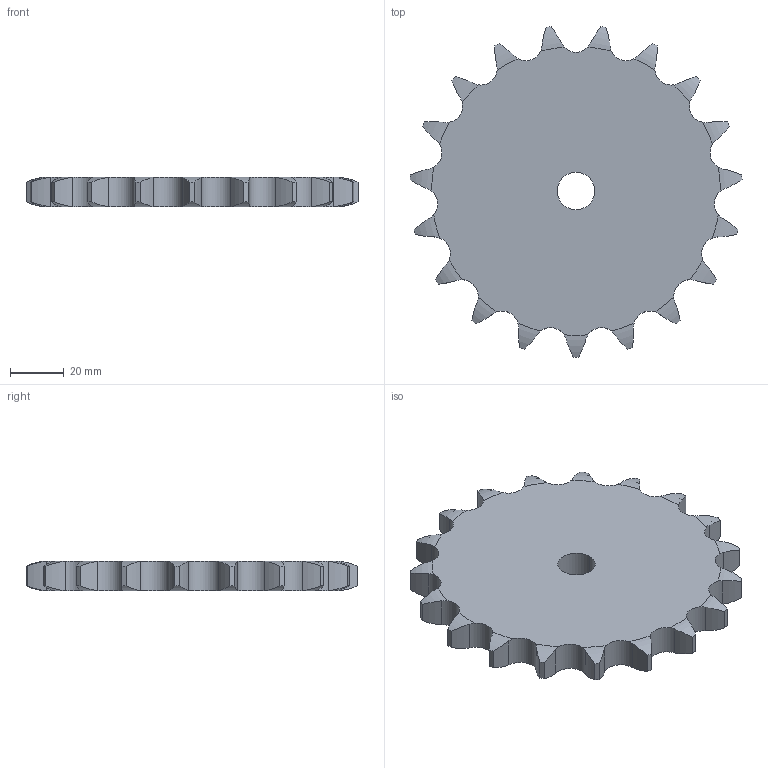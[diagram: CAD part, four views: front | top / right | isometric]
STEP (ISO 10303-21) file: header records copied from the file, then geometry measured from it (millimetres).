
FILE_DESCRIPTION((''),'2;1');
FILE_NAME('500-401-0019_PRT','2021-02-12T',('Brieden'),('Brieden'),'PRO/ENGINEER BY PARAMETRIC TECHNOLOGY CORPORATION, 2010160','PRO/ENGINEER BY PARAMETRIC TECHNOLOGY CORPORATION, 2010160','');
FILE_SCHEMA(('AUTOMOTIVE_DESIGN { 1 0 10303 214 1 1 1 1 }'));
Length unit declared in the file: millimetre
Products named in the file (1): 500-401-0019_PRT
Bounding box: 123.92 x 123.5 x 11.1 mm (x, y, z)
Volume: 105642.5 mm3; surface area: 25478.3 mm2
Topology: 1 solids, 1 shells, 118 faces, 348 edges, 232 vertices
Faces by surface type: cylinder 78, torus 38, plane 2
Entity records: 5657 total; most frequent: CARTESIAN_POINT 1574, ORIENTED_EDGE 696, DIRECTION 550, PRESENTATION_STYLE_ASSIGNMENT 349, STYLED_ITEM 349, CURVE_STYLE 348, EDGE_CURVE 348, AXIS2_PLACEMENT_3D 236
